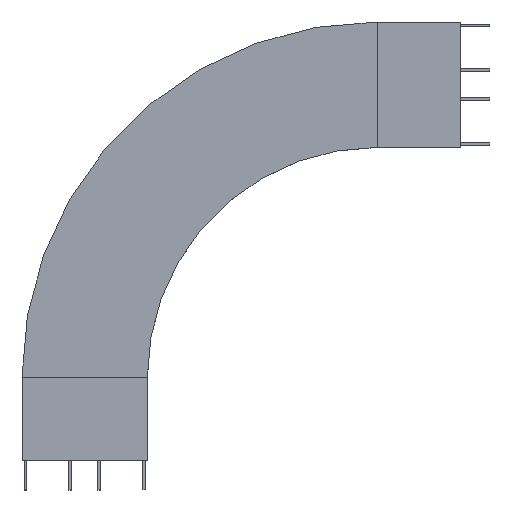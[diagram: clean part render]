
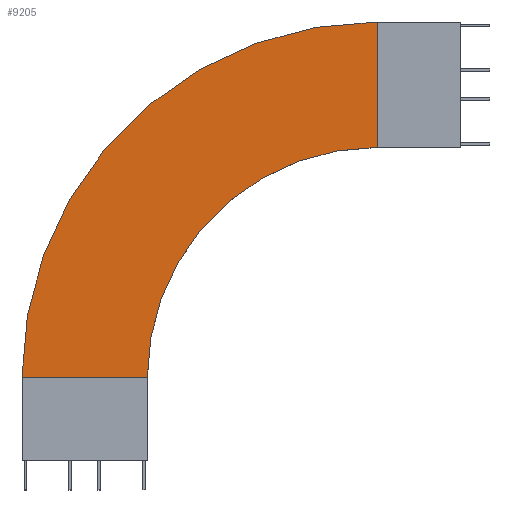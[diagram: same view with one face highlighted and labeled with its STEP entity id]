
A CAD part, top view. The second image highlights one B-rep face of the part: STEP entity #9205.
In plain terms, the highlighted planar face has unit normal (0, 0, 1).
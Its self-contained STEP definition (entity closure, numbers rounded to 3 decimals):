
#30 = CARTESIAN_POINT ( 'NONE',  ( -550., 0., 46.5 ) ) ;
#112 = AXIS2_PLACEMENT_3D ( 'NONE', #1404, #4386, #5992 ) ;
#246 = ORIENTED_EDGE ( 'NONE', *, *, #9604, .T. ) ;
#681 = EDGE_LOOP ( 'NONE', ( #3930, #6381, #4671, #246 ) ) ;
#1168 = FACE_OUTER_BOUND ( 'NONE', #681, .T. ) ;
#1216 = DIRECTION ( 'NONE',  ( 1., 0., 0. ) ) ;
#1404 = CARTESIAN_POINT ( 'NONE',  ( 0., 0., 46.5 ) ) ;
#1771 = AXIS2_PLACEMENT_3D ( 'NONE', #4593, #3199, #8720 ) ;
#2111 = CARTESIAN_POINT ( 'NONE',  ( -850., 0., 46.5 ) ) ;
#2189 = CARTESIAN_POINT ( 'NONE',  ( 0., 850., 46.5 ) ) ;
#3053 = VERTEX_POINT ( 'NONE', #3200 ) ;
#3199 = DIRECTION ( 'NONE',  ( 0., 0., 1. ) ) ;
#3200 = CARTESIAN_POINT ( 'NONE',  ( -850., 0., 46.5 ) ) ;
#3308 = EDGE_CURVE ( 'NONE', #5160, #3053, #6817, .T. ) ;
#3755 = VERTEX_POINT ( 'NONE', #2189 ) ;
#3930 = ORIENTED_EDGE ( 'NONE', *, *, #3308, .F. ) ;
#4171 = CARTESIAN_POINT ( 'NONE',  ( 0., 550., 46.5 ) ) ;
#4308 = PLANE ( 'NONE',  #8505 ) ;
#4386 = DIRECTION ( 'NONE',  ( 0., 0., 1. ) ) ;
#4593 = CARTESIAN_POINT ( 'NONE',  ( 0., 0., 46.5 ) ) ;
#4671 = ORIENTED_EDGE ( 'NONE', *, *, #10081, .T. ) ;
#4729 = LINE ( 'NONE', #7730, #7547 ) ;
#4834 = VERTEX_POINT ( 'NONE', #4171 ) ;
#5041 = VECTOR ( 'NONE', #7486, 1000. ) ;
#5160 = VERTEX_POINT ( 'NONE', #30 ) ;
#5556 = CIRCLE ( 'NONE', #1771, 550. ) ;
#5992 = DIRECTION ( 'NONE',  ( 0., 1., 0. ) ) ;
#6381 = ORIENTED_EDGE ( 'NONE', *, *, #9678, .F. ) ;
#6817 = LINE ( 'NONE', #2111, #5041 ) ;
#7464 = CARTESIAN_POINT ( 'NONE',  ( 0., 850., 46.5 ) ) ;
#7486 = DIRECTION ( 'NONE',  ( -1., 0., 0. ) ) ;
#7547 = VECTOR ( 'NONE', #10167, 1000. ) ;
#7730 = CARTESIAN_POINT ( 'NONE',  ( 0., 850., 46.5 ) ) ;
#8505 = AXIS2_PLACEMENT_3D ( 'NONE', #7464, #9063, #1216 ) ;
#8720 = DIRECTION ( 'NONE',  ( 0., 1., 0. ) ) ;
#9025 = CIRCLE ( 'NONE', #112, 850. ) ;
#9063 = DIRECTION ( 'NONE',  ( 0., 0., 1. ) ) ;
#9205 = ADVANCED_FACE ( 'NONE', ( #1168 ), #4308, .T. ) ;
#9604 = EDGE_CURVE ( 'NONE', #3755, #3053, #9025, .T. ) ;
#9678 = EDGE_CURVE ( 'NONE', #4834, #5160, #5556, .T. ) ;
#10081 = EDGE_CURVE ( 'NONE', #4834, #3755, #4729, .T. ) ;
#10167 = DIRECTION ( 'NONE',  ( 0., 1., 0. ) ) ;
